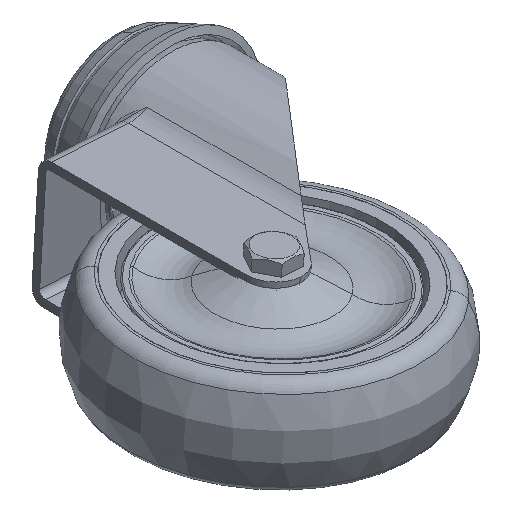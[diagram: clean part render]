
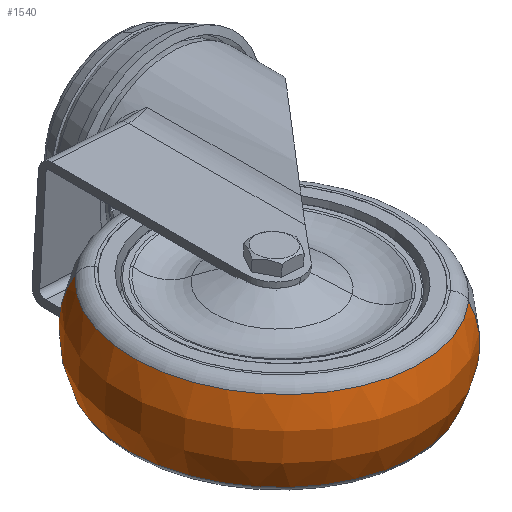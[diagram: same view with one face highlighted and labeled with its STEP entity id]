
A CAD part, isometric view. The second image highlights one B-rep face of the part: STEP entity #1540.
In plain terms, the highlighted toroidal (fillet/blend) face has major radius 22 mm and minor radius 28 mm.
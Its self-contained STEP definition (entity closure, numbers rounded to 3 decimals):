
#53 = EDGE_LOOP ( 'NONE', ( #11036, #1549, #1520, #1547 ) ) ;
#64 = EDGE_CURVE ( 'NONE', #10569, #10570, #376, .T. ) ;
#376 = CIRCLE ( 'NONE', #432, 46.753 ) ;
#423 = DIRECTION ( 'NONE',  ( -0.664, 0.746, 0.043 ) ) ;
#424 = DIRECTION ( 'NONE',  ( -0.064, 0., -0.998 ) ) ;
#425 = CARTESIAN_POINT ( 'NONE',  ( 50.464, -83.41, 84.982 ) ) ;
#432 = AXIS2_PLACEMENT_3D ( 'NONE', #425, #424, #423 ) ;
#1089 = AXIS2_PLACEMENT_3D ( 'NONE', #1109, #1120, #1119 ) ;
#1109 = CARTESIAN_POINT ( 'NONE',  ( 51.306, -83.41, 98.042 ) ) ;
#1113 = TOROIDAL_SURFACE ( 'NONE', #1089, 22., 28. ) ;
#1119 = DIRECTION ( 'NONE',  ( -0.664, 0.746, 0.043 ) ) ;
#1120 = DIRECTION ( 'NONE',  ( -0.064, 0., -0.998 ) ) ;
#1129 = FACE_OUTER_BOUND ( 'NONE', #53, .T. ) ;
#1520 = ORIENTED_EDGE ( 'NONE', *, *, #10727, .T. ) ;
#1540 = ADVANCED_FACE ( 'NONE', ( #1129 ), #1113, .T. ) ;
#1547 = ORIENTED_EDGE ( 'NONE', *, *, #64, .F. ) ;
#1549 = ORIENTED_EDGE ( 'NONE', *, *, #10495, .T. ) ;
#7474 = CARTESIAN_POINT ( 'NONE',  ( 83.213, -118.293, 109.1 ) ) ;
#7512 = DIRECTION ( 'NONE',  ( -0.664, 0.746, 0.043 ) ) ;
#7513 = DIRECTION ( 'NONE',  ( -0.064, 0., -0.998 ) ) ;
#7514 = CARTESIAN_POINT ( 'NONE',  ( 52.148, -83.41, 111.103 ) ) ;
#7525 = CIRCLE ( 'NONE', #7534, 46.753 ) ;
#7534 = AXIS2_PLACEMENT_3D ( 'NONE', #7514, #7513, #7512 ) ;
#7643 = CARTESIAN_POINT ( 'NONE',  ( 19.399, -48.528, 86.984 ) ) ;
#7644 = CARTESIAN_POINT ( 'NONE',  ( 81.529, -118.293, 82.979 ) ) ;
#7659 = CIRCLE ( 'NONE', #7670, 28. ) ;
#7670 = AXIS2_PLACEMENT_3D ( 'NONE', #7715, #7714, #7713 ) ;
#7713 = DIRECTION ( 'NONE',  ( -0.667, 0.745, 0. ) ) ;
#7714 = DIRECTION ( 'NONE',  ( 0.745, 0.666, -0.048 ) ) ;
#7715 = CARTESIAN_POINT ( 'NONE',  ( 65.924, -99.825, 97.1 ) ) ;
#7954 = CIRCLE ( 'NONE', #7998, 28. ) ;
#7978 = CARTESIAN_POINT ( 'NONE',  ( 21.083, -48.528, 113.105 ) ) ;
#7992 = DIRECTION ( 'NONE',  ( 0.667, -0.745, 0. ) ) ;
#7995 = CARTESIAN_POINT ( 'NONE',  ( 36.688, -66.996, 98.984 ) ) ;
#7996 = DIRECTION ( 'NONE',  ( -0.745, -0.666, 0.048 ) ) ;
#7998 = AXIS2_PLACEMENT_3D ( 'NONE', #7995, #7996, #7992 ) ;
#10487 = VERTEX_POINT ( 'NONE', #7474 ) ;
#10495 = EDGE_CURVE ( 'NONE', #10487, #10746, #7525, .T. ) ;
#10569 = VERTEX_POINT ( 'NONE', #7644 ) ;
#10570 = VERTEX_POINT ( 'NONE', #7643 ) ;
#10599 = EDGE_CURVE ( 'NONE', #10487, #10569, #7659, .T. ) ;
#10727 = EDGE_CURVE ( 'NONE', #10746, #10570, #7954, .T. ) ;
#10746 = VERTEX_POINT ( 'NONE', #7978 ) ;
#11036 = ORIENTED_EDGE ( 'NONE', *, *, #10599, .F. ) ;
